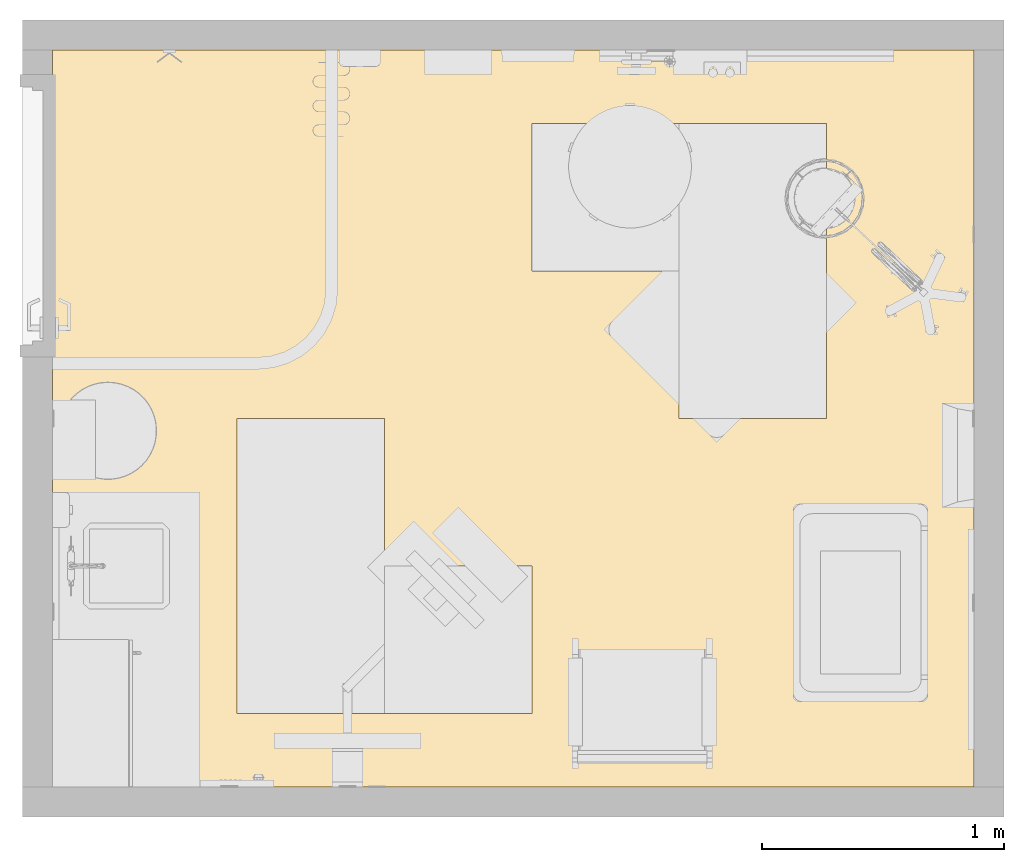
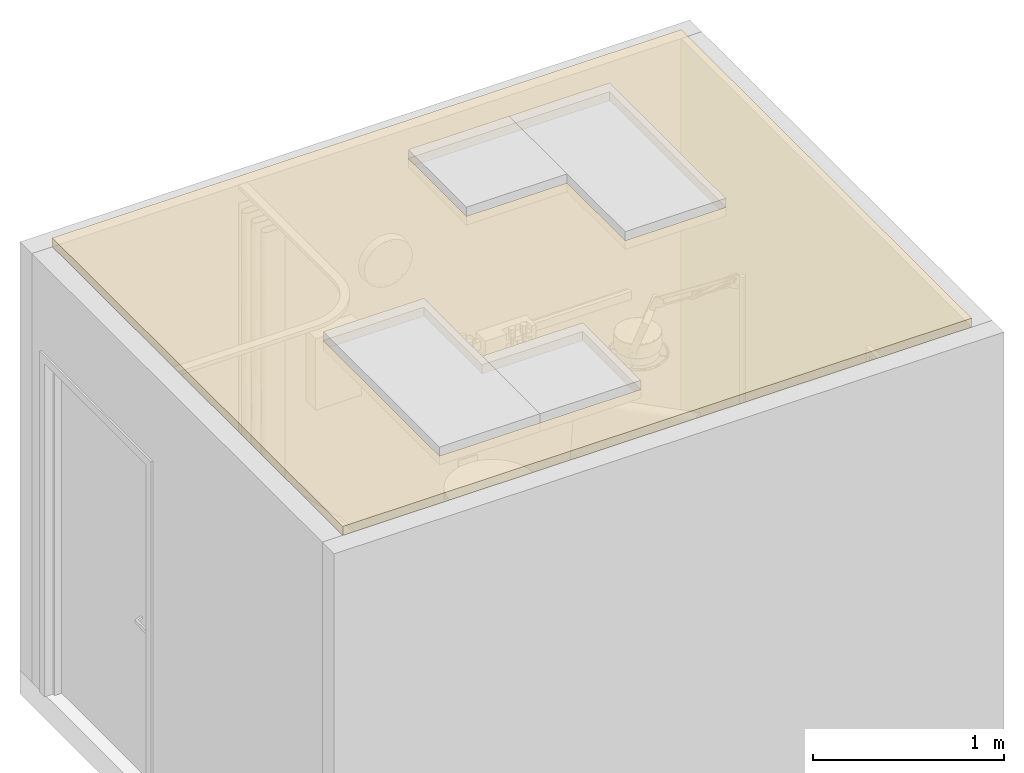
# One storey, part 3 of 10: 1 covering.
"""IFC2X3 building model written with IfcOpenShell, lengths in feet."""

from ifc_helpers import new_model, entity, si_unit, converted_unit, derived_unit, direction, frame, origin, place, context, subcontext, project, spatial, polyline, outline, extrude, material, layer, layer_set, layer_usage, element, save


model = new_model("IFC2X3")

# Units and contexts
model_context = context("Model", 3, precision=0.0001, world=origin(), true_north=direction((6.12303176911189e-17, 1.0)))
body_context = subcontext(model_context, "Body", "Model", "MODEL_VIEW")
ifc_project = project(units=[converted_unit("LENGTHUNIT", "FOOT", entity("IfcRatioMeasure", 0.3048), si_unit("LENGTHUNIT", "METRE"), dimensions=[1, 0, 0, 0, 0, 0, 0]), converted_unit("AREAUNIT", "SQUARE FOOT", entity("IfcRatioMeasure", 0.09290304), si_unit("AREAUNIT", "SQUARE_METRE"), dimensions=[2, 0, 0, 0, 0, 0, 0]), converted_unit("VOLUMEUNIT", "CUBIC FOOT", entity("IfcRatioMeasure", 0.028316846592), si_unit("VOLUMEUNIT", "CUBIC_METRE"), dimensions=[3, 0, 0, 0, 0, 0, 0]), converted_unit("PLANEANGLEUNIT", "DEGREE", entity("IfcRatioMeasure", 0.0174532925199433), si_unit("PLANEANGLEUNIT", "RADIAN"), dimensions=[0, 0, 0, 0, 0, 0, 0]), si_unit("MASSUNIT", "GRAM", prefix="KILO"), derived_unit("MASSDENSITYUNIT", [(si_unit("MASSUNIT", "GRAM", prefix="KILO"), 1), (si_unit("LENGTHUNIT", "METRE"), -3)]), si_unit("TIMEUNIT", "SECOND"), si_unit("FREQUENCYUNIT", "HERTZ"), si_unit("THERMODYNAMICTEMPERATUREUNIT", "DEGREE_CELSIUS"), derived_unit("THERMALTRANSMITTANCEUNIT", [(si_unit("MASSUNIT", "GRAM", prefix="KILO"), 1), (si_unit("THERMODYNAMICTEMPERATUREUNIT", "KELVIN"), -1), (si_unit("TIMEUNIT", "SECOND"), -3)]), derived_unit("VOLUMETRICFLOWRATEUNIT", [(si_unit("LENGTHUNIT", "METRE"), 3), (si_unit("TIMEUNIT", "SECOND"), -1)]), si_unit("ELECTRICCURRENTUNIT", "AMPERE"), si_unit("ELECTRICVOLTAGEUNIT", "VOLT"), si_unit("POWERUNIT", "WATT"), si_unit("FORCEUNIT", "NEWTON"), si_unit("ILLUMINANCEUNIT", "LUX"), si_unit("LUMINOUSFLUXUNIT", "LUMEN"), si_unit("LUMINOUSINTENSITYUNIT", "CANDELA"), derived_unit("USERDEFINED", [(si_unit("MASSUNIT", "GRAM", prefix="KILO"), -1), (si_unit("LENGTHUNIT", "METRE"), -2), (si_unit("TIMEUNIT", "SECOND"), 3), (si_unit("LUMINOUSFLUXUNIT", "LUMEN"), 1)]), derived_unit("LINEARVELOCITYUNIT", [(si_unit("LENGTHUNIT", "METRE"), 1), (si_unit("TIMEUNIT", "SECOND"), -1)]), si_unit("PRESSUREUNIT", "PASCAL"), derived_unit("USERDEFINED", [(si_unit("LENGTHUNIT", "METRE"), -2), (si_unit("MASSUNIT", "GRAM", prefix="KILO"), 1), (si_unit("TIMEUNIT", "SECOND"), -2)])], contexts=[model_context])

# Site, building, storey
site_placement = place(None, origin())
site = spatial("IfcSite", under=ifc_project, at=site_placement, Name="Default", CompositionType="ELEMENT")
building_placement = place(site_placement, origin())
building = spatial("IfcBuilding", under=site, at=building_placement, Name="OUTPATIENT / PACT CLINIC (Ch. 265)", CompositionType="ELEMENT")
storey_placement = place(building_placement, origin())
storey = spatial("IfcBuildingStorey", under=building, at=storey_placement, Name="DATUM", CompositionType="ELEMENT", Elevation=0.0)

# Covering
ifc_material_1 = material(Name="<Unnamed>")
ifc_layer_1 = layer(ifc_material_1, 0.135416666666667)
ifc_material_2 = material(Name="Acoustic Ceiling Tile 24 x 24")
ifc_layer_2 = layer(ifc_material_2, 0.0520833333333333)
ifc_layer_set = layer_set([ifc_layer_1, ifc_layer_2], Name="Compound Ceiling:2' x 2' ACT System")
ifc_layer_usage = layer_usage(ifc_layer_set, "AXIS3", "POSITIVE", 0.0)
covering_placement = place(storey_placement, origin())
element("IfcCovering", 1, at=covering_placement, inside=storey, material=ifc_layer_usage, Name="Compound Ceiling:2' x 2' ACT System", ObjectType="Compound Ceiling:2' x 2' ACT System", PredefinedType="CEILING", context=body_context, shape_type="SweptSolid", body=[
    extrude(outline(polyline([(-5.0, -6.25), (5.0, -6.25), (5.0, 6.25), (-5.0, 6.25), (-5.0, -6.25)]), holes=[polyline([(0.0, 2.24999999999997), (-2.0, 2.24999999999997), (-2.0, 0.25), (-4.0, 0.25), (-4.0, 4.25), (0.0, 4.25), (0.0, 2.24999999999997)]), polyline([(4.0, -3.75000000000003), (0.0, -3.75000000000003), (0.0, -1.75), (2.0, -1.75), (2.0, 0.249999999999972), (4.0, 0.249999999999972), (4.0, -3.75000000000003)])]), frame((242.516410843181, -854.855546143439, 9.0), z_axis=(0.0, 0.0, 1.0), x_axis=(0.0, -1.0, 0.0)), (0.0, 0.0, 1.0), 0.1875),
])

save(model, "model.ifc")
